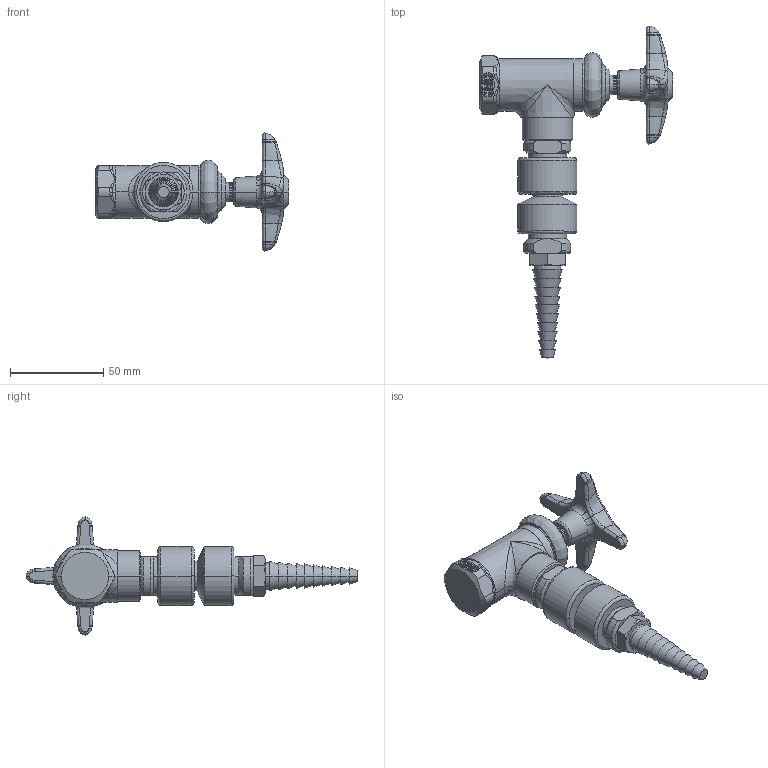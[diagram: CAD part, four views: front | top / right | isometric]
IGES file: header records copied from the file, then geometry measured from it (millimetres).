
Start section:  PTC IGES file: LWV2-C43.igs
Global section: file name: LWV2-C43.igs; native system: Creo Parametric by PTC Inc.; preprocessor: 2014500; author: usch_engrender; organization: Unknown; date: 20150903.150738; units: inch
Bounding box: 103.84 x 178.42 x 63.42 mm (x, y, z)
Volume: 113427 mm3; surface area: 26429.7 mm2
Topology: 1 solids, 3 shells, 505 faces, 1163 edges, 688 vertices
Faces by surface type: bspline 277, revolution 228
